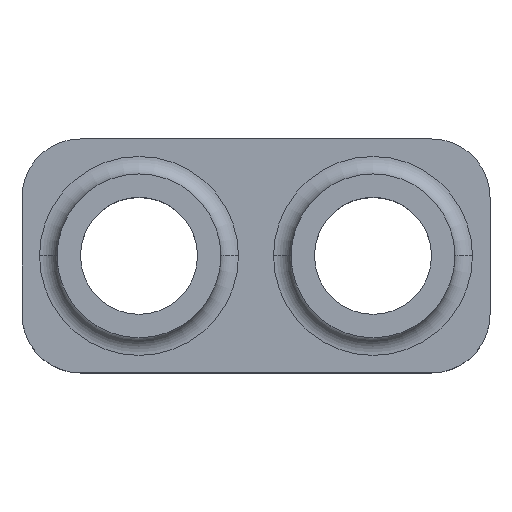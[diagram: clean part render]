
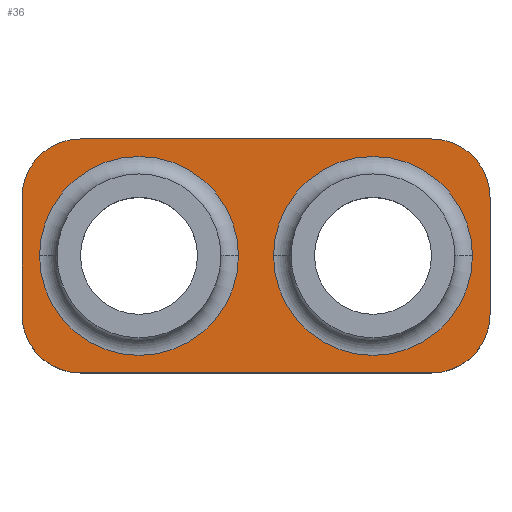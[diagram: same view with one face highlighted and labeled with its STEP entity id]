
A CAD part, top view. The second image highlights one B-rep face of the part: STEP entity #36.
In plain terms, the highlighted planar face has unit normal (0, 0, 1).
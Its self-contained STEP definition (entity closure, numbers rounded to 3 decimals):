
#5 = LINE ( 'NONE', #464, #158 ) ;
#6 = EDGE_CURVE ( 'NONE', #437, #501, #609, .T. ) ;
#7 = EDGE_LOOP ( 'NONE', ( #184, #20 ) ) ;
#20 = ORIENTED_EDGE ( 'NONE', *, *, #257, .T. ) ;
#28 = ORIENTED_EDGE ( 'NONE', *, *, #530, .F. ) ;
#36 = ADVANCED_FACE ( 'NONE', ( #462, #353, #234 ), #688, .F. ) ;
#43 = CARTESIAN_POINT ( 'NONE',  ( 1.5, 0., 8. ) ) ;
#56 = AXIS2_PLACEMENT_3D ( 'NONE', #511, #122, #685 ) ;
#62 = CARTESIAN_POINT ( 'NONE',  ( -10., 0., 8. ) ) ;
#82 = CARTESIAN_POINT ( 'NONE',  ( 20., 5., 8. ) ) ;
#84 = CARTESIAN_POINT ( 'NONE',  ( -10., 0., 8. ) ) ;
#91 = ORIENTED_EDGE ( 'NONE', *, *, #6, .T. ) ;
#93 = EDGE_CURVE ( 'NONE', #457, #165, #713, .T. ) ;
#99 = CIRCLE ( 'NONE', #548, 8.5 ) ;
#106 = DIRECTION ( 'NONE',  ( 0., 0., -1. ) ) ;
#114 = VECTOR ( 'NONE', #510, 1000. ) ;
#120 = CARTESIAN_POINT ( 'NONE',  ( -18.5, 0., 8. ) ) ;
#121 = VERTEX_POINT ( 'NONE', #491 ) ;
#122 = DIRECTION ( 'NONE',  ( 0., 0., 1. ) ) ;
#132 = DIRECTION ( 'NONE',  ( -1., 0., 0. ) ) ;
#138 = ORIENTED_EDGE ( 'NONE', *, *, #268, .T. ) ;
#142 = VERTEX_POINT ( 'NONE', #317 ) ;
#147 = DIRECTION ( 'NONE',  ( 0., 0., 1. ) ) ;
#149 = AXIS2_PLACEMENT_3D ( 'NONE', #283, #106, #338 ) ;
#150 = CIRCLE ( 'NONE', #717, 5. ) ;
#153 = LINE ( 'NONE', #558, #347 ) ;
#155 = DIRECTION ( 'NONE',  ( -1., 0., 0. ) ) ;
#158 = VECTOR ( 'NONE', #692, 1000. ) ;
#165 = VERTEX_POINT ( 'NONE', #426 ) ;
#171 = DIRECTION ( 'NONE',  ( -1., 0., 0. ) ) ;
#184 = ORIENTED_EDGE ( 'NONE', *, *, #333, .T. ) ;
#201 = DIRECTION ( 'NONE',  ( 0., 0., 1. ) ) ;
#203 = CARTESIAN_POINT ( 'NONE',  ( -15., -5., 8. ) ) ;
#211 = VERTEX_POINT ( 'NONE', #120 ) ;
#219 = DIRECTION ( 'NONE',  ( 0., 1., 0. ) ) ;
#222 = VERTEX_POINT ( 'NONE', #518 ) ;
#234 = FACE_OUTER_BOUND ( 'NONE', #374, .T. ) ;
#236 = CARTESIAN_POINT ( 'NONE',  ( -15., 10., 8. ) ) ;
#257 = EDGE_CURVE ( 'NONE', #615, #658, #517, .T. ) ;
#260 = AXIS2_PLACEMENT_3D ( 'NONE', #203, #201, #438 ) ;
#268 = EDGE_CURVE ( 'NONE', #121, #211, #345, .T. ) ;
#269 = AXIS2_PLACEMENT_3D ( 'NONE', #668, #147, #656 ) ;
#281 = CARTESIAN_POINT ( 'NONE',  ( 20., 0., 8. ) ) ;
#283 = CARTESIAN_POINT ( 'NONE',  ( 10., 0., 8. ) ) ;
#298 = CARTESIAN_POINT ( 'NONE',  ( 15., -10., 8. ) ) ;
#316 = DIRECTION ( 'NONE',  ( 0., 0., -1. ) ) ;
#317 = CARTESIAN_POINT ( 'NONE',  ( -20., -5., 8. ) ) ;
#331 = ORIENTED_EDGE ( 'NONE', *, *, #385, .T. ) ;
#333 = EDGE_CURVE ( 'NONE', #658, #615, #478, .T. ) ;
#338 = DIRECTION ( 'NONE',  ( -1., 0., 0. ) ) ;
#345 = CIRCLE ( 'NONE', #577, 8.5 ) ;
#347 = VECTOR ( 'NONE', #219, 1000. ) ;
#352 = DIRECTION ( 'NONE',  ( 0., 0., -1. ) ) ;
#353 = FACE_BOUND ( 'NONE', #7, .T. ) ;
#354 = EDGE_CURVE ( 'NONE', #142, #165, #681, .T. ) ;
#356 = DIRECTION ( 'NONE',  ( 0., 0., -1. ) ) ;
#371 = AXIS2_PLACEMENT_3D ( 'NONE', #487, #316, #382 ) ;
#374 = EDGE_LOOP ( 'NONE', ( #677, #331, #736, #602, #603, #91, #28, #704 ) ) ;
#375 = CARTESIAN_POINT ( 'NONE',  ( -20., 5., 8. ) ) ;
#382 = DIRECTION ( 'NONE',  ( -1., 0., 0. ) ) ;
#385 = EDGE_CURVE ( 'NONE', #457, #222, #702, .T. ) ;
#387 = LINE ( 'NONE', #281, #114 ) ;
#389 = CARTESIAN_POINT ( 'NONE',  ( 15., 5., 8. ) ) ;
#406 = DIRECTION ( 'NONE',  ( 0., 0., -1. ) ) ;
#426 = CARTESIAN_POINT ( 'NONE',  ( -15., -10., 8. ) ) ;
#437 = VERTEX_POINT ( 'NONE', #236 ) ;
#438 = DIRECTION ( 'NONE',  ( -1., 0., 0. ) ) ;
#457 = VERTEX_POINT ( 'NONE', #298 ) ;
#462 = FACE_BOUND ( 'NONE', #527, .T. ) ;
#464 = CARTESIAN_POINT ( 'NONE',  ( 0., 10., 8. ) ) ;
#468 = EDGE_CURVE ( 'NONE', #211, #121, #99, .T. ) ;
#478 = CIRCLE ( 'NONE', #371, 8.5 ) ;
#487 = CARTESIAN_POINT ( 'NONE',  ( 10., 0., 8. ) ) ;
#491 = CARTESIAN_POINT ( 'NONE',  ( -1.5, 0., 8. ) ) ;
#497 = EDGE_CURVE ( 'NONE', #542, #437, #5, .T. ) ;
#501 = VERTEX_POINT ( 'NONE', #375 ) ;
#510 = DIRECTION ( 'NONE',  ( 0., 1., 0. ) ) ;
#511 = CARTESIAN_POINT ( 'NONE',  ( -15., 5., 8. ) ) ;
#516 = CARTESIAN_POINT ( 'NONE',  ( 0., 0., 8. ) ) ;
#517 = CIRCLE ( 'NONE', #149, 8.5 ) ;
#518 = CARTESIAN_POINT ( 'NONE',  ( 20., -5., 8. ) ) ;
#527 = EDGE_LOOP ( 'NONE', ( #627, #138 ) ) ;
#528 = DIRECTION ( 'NONE',  ( -1., 0., 0. ) ) ;
#530 = EDGE_CURVE ( 'NONE', #142, #501, #153, .T. ) ;
#542 = VERTEX_POINT ( 'NONE', #625 ) ;
#548 = AXIS2_PLACEMENT_3D ( 'NONE', #84, #406, #132 ) ;
#549 = CARTESIAN_POINT ( 'NONE',  ( 0., -10., 8. ) ) ;
#558 = CARTESIAN_POINT ( 'NONE',  ( -20., 0., 8. ) ) ;
#564 = EDGE_CURVE ( 'NONE', #737, #542, #150, .T. ) ;
#577 = AXIS2_PLACEMENT_3D ( 'NONE', #62, #352, #171 ) ;
#579 = VECTOR ( 'NONE', #528, 1000. ) ;
#602 = ORIENTED_EDGE ( 'NONE', *, *, #564, .T. ) ;
#603 = ORIENTED_EDGE ( 'NONE', *, *, #497, .T. ) ;
#609 = CIRCLE ( 'NONE', #56, 5. ) ;
#615 = VERTEX_POINT ( 'NONE', #730 ) ;
#625 = CARTESIAN_POINT ( 'NONE',  ( 15., 10., 8. ) ) ;
#627 = ORIENTED_EDGE ( 'NONE', *, *, #468, .T. ) ;
#631 = EDGE_CURVE ( 'NONE', #222, #737, #387, .T. ) ;
#637 = DIRECTION ( 'NONE',  ( -1., 0., 0. ) ) ;
#656 = DIRECTION ( 'NONE',  ( -1., 0., 0. ) ) ;
#658 = VERTEX_POINT ( 'NONE', #43 ) ;
#668 = CARTESIAN_POINT ( 'NONE',  ( 15., -5., 8. ) ) ;
#677 = ORIENTED_EDGE ( 'NONE', *, *, #93, .F. ) ;
#681 = CIRCLE ( 'NONE', #260, 5. ) ;
#685 = DIRECTION ( 'NONE',  ( -1., 0., 0. ) ) ;
#688 = PLANE ( 'NONE',  #706 ) ;
#692 = DIRECTION ( 'NONE',  ( -1., 0., 0. ) ) ;
#702 = CIRCLE ( 'NONE', #269, 5. ) ;
#704 = ORIENTED_EDGE ( 'NONE', *, *, #354, .T. ) ;
#706 = AXIS2_PLACEMENT_3D ( 'NONE', #516, #356, #637 ) ;
#713 = LINE ( 'NONE', #549, #579 ) ;
#717 = AXIS2_PLACEMENT_3D ( 'NONE', #389, #727, #155 ) ;
#727 = DIRECTION ( 'NONE',  ( 0., 0., 1. ) ) ;
#730 = CARTESIAN_POINT ( 'NONE',  ( 18.5, 0., 8. ) ) ;
#736 = ORIENTED_EDGE ( 'NONE', *, *, #631, .T. ) ;
#737 = VERTEX_POINT ( 'NONE', #82 ) ;
